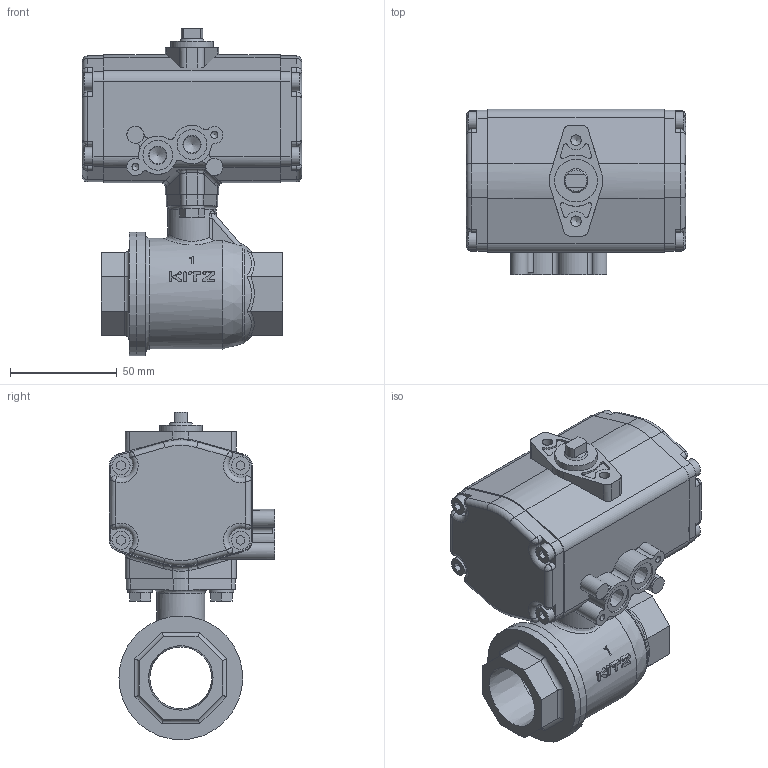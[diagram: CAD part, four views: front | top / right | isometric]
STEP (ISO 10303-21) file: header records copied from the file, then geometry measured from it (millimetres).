
FILE_DESCRIPTION(/* description */ ('ＫＩＴＺ'),/* implementation_level */ '2;1');
FILE_NAME(/* name */ 'C:\Users\Fujimoto-s\OneDrive\Inventor\WorkSpace\その他\ホームページ用\ダウンロード素材\ねじ込み継手\C-UTFE25A\C-UTFE25A.stp',/* time_stamp */ '2024-08-08T09:47:52+09:00',/* author */ ('Fujimoto-s'),/* organization */ (''),/* preprocessor_version */ 'ST-DEVELOPER v15.2',/* originating_system */ 'Autodesk Inventor 2014',/* authorisation */ 'ｱｸﾁｪｰﾀｰは1～1・1/2まで共通、1/2と3/4はUTE20Aを流用');
FILE_SCHEMA (('AUTOMOTIVE_DESIGN { 1 0 10303 214 3 1 1 }'));
Length unit declared in the file: millimetre
Products named in the file (1): C-UTFE25A
Bounding box: 102.8 x 77.5 x 153.5 mm (x, y, z)
Volume: 488059.7 mm3; surface area: 60844.8 mm2
Topology: 2 solids, 2 shells, 463 faces, 1161 edges, 719 vertices
Faces by surface type: plane 232, cylinder 163, bspline 40, torus 15, cone 13
Full cylindrical faces by diameter (mm): 3.242 x2, 4.917 x2, 8 x4, 8.5 x8, 11.5 x2, 14 x2, 20 x1, 22.6 x1, 29 x1, 52 x1, 57.98 x1, 58 x2
Entity records: 16026 total; most frequent: CARTESIAN_POINT 5075, DIRECTION 2180, ORIENTED_EDGE 2166, EDGE_CURVE 1082, AXIS2_PLACEMENT_3D 786, VERTEX_POINT 699, LINE 608, VECTOR 608
